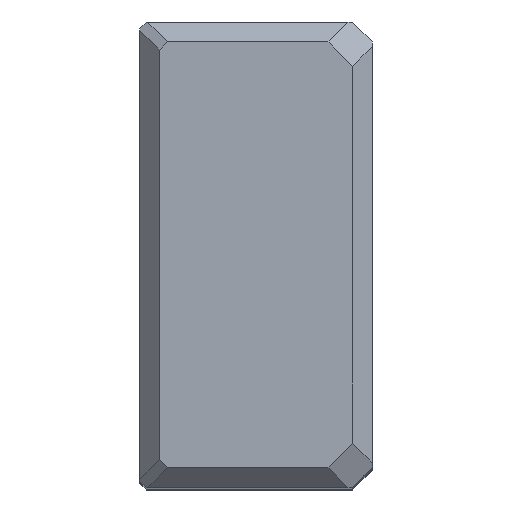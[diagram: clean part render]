
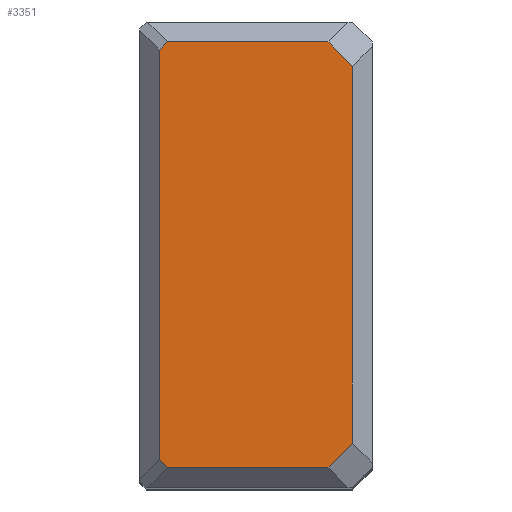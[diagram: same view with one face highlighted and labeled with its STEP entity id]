
A CAD part, top view. The second image highlights one B-rep face of the part: STEP entity #3351.
In plain terms, the highlighted planar face has unit normal (0, 0, 1).
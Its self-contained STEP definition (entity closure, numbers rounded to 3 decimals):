
#111=VERTEX_POINT(' ',#112);
#112=CARTESIAN_POINT('',(-3.,-28.326,0.));
#113=VERTEX_POINT(' ',#114);
#114=CARTESIAN_POINT('',(-6.674,-32.,0.));
#143=VERTEX_POINT(' ',#144);
#144=CARTESIAN_POINT('',(-3.,28.326,0.));
#151=VERTEX_POINT(' ',#152);
#152=CARTESIAN_POINT('',(-6.674,32.,0.));
#181=VERTEX_POINT(' ',#182);
#182=CARTESIAN_POINT('',(-30.775,-32.,0.));
#189=VERTEX_POINT(' ',#190);
#190=CARTESIAN_POINT('',(-32.,-30.775,0.));
#207=VERTEX_POINT(' ',#208);
#208=CARTESIAN_POINT('',(-32.,30.775,0.));
#211=VERTEX_POINT(' ',#212);
#212=CARTESIAN_POINT('',(-30.775,32.,0.));
#700=LINE('',#701,#702);
#701=CARTESIAN_POINT('',(12.663,-12.663,0.));
#702=VECTOR('',#703,1.);
#703=DIRECTION('',(0.707,0.707,0.));
#704=EDGE_CURVE(' ',#111,#113,#700,.F.);
#830=LINE('',#831,#832);
#831=CARTESIAN_POINT('',(-3.,-35.12,0.));
#832=VECTOR('',#833,1.);
#833=DIRECTION('',(0.,1.,0.));
#834=EDGE_CURVE(' ',#111,#143,#830,.T.);
#855=LINE('',#856,#857);
#856=CARTESIAN_POINT('',(12.663,12.663,0.));
#857=VECTOR('',#858,1.);
#858=DIRECTION('',(-0.707,0.707,0.));
#859=EDGE_CURVE(' ',#151,#143,#855,.F.);
#1020=LINE('',#1021,#1022);
#1021=CARTESIAN_POINT('',(-35.12,-32.,0.));
#1022=VECTOR('',#1023,1.);
#1023=DIRECTION('',(1.,0.,0.));
#1024=EDGE_CURVE(' ',#181,#113,#1020,.T.);
#1035=LINE('',#1036,#1037);
#1036=CARTESIAN_POINT('',(-31.388,-31.388,0.));
#1037=VECTOR('',#1038,1.);
#1038=DIRECTION('',(0.707,-0.707,0.));
#1039=EDGE_CURVE(' ',#181,#189,#1035,.F.);
#1127=LINE('',#1128,#1129);
#1128=CARTESIAN_POINT('',(-32.,-35.12,0.));
#1129=VECTOR('',#1130,1.);
#1130=DIRECTION('',(0.,1.,0.));
#1131=EDGE_CURVE(' ',#189,#207,#1127,.T.);
#1132=LINE('',#1133,#1134);
#1133=CARTESIAN_POINT('',(-31.388,31.388,0.));
#1134=VECTOR('',#1135,1.);
#1135=DIRECTION('',(-0.707,-0.707,0.));
#1136=EDGE_CURVE(' ',#207,#211,#1132,.F.);
#1137=LINE('',#1138,#1139);
#1138=CARTESIAN_POINT('',(-35.12,32.,0.));
#1139=VECTOR('',#1140,1.);
#1140=DIRECTION('',(1.,0.,0.));
#1141=EDGE_CURVE(' ',#151,#211,#1137,.F.);
#3336=ORIENTED_EDGE('',*,*,#1136,.F.);
#3337=ORIENTED_EDGE('',*,*,#1131,.F.);
#3338=ORIENTED_EDGE('',*,*,#1039,.F.);
#3339=ORIENTED_EDGE('',*,*,#1024,.T.);
#3340=ORIENTED_EDGE('',*,*,#704,.F.);
#3341=ORIENTED_EDGE('',*,*,#834,.T.);
#3342=ORIENTED_EDGE('',*,*,#859,.F.);
#3343=ORIENTED_EDGE('',*,*,#1141,.T.);
#3344=EDGE_LOOP('',(#3336,#3337,#3338,#3339,#3340,#3341,#3342,#3343));
#3345=FACE_OUTER_BOUND('',#3344,.T.);
#3346=PLANE('',#3347);
#3347=AXIS2_PLACEMENT_3D('',#3348,#3349,#3350);
#3348=CARTESIAN_POINT('',(-32.,0.,0.));
#3349=DIRECTION('',(0.,0.,1.));
#3350=DIRECTION('',(1.,0.,0.));
#3351=ADVANCED_FACE('',(#3345),#3346,.T.);
